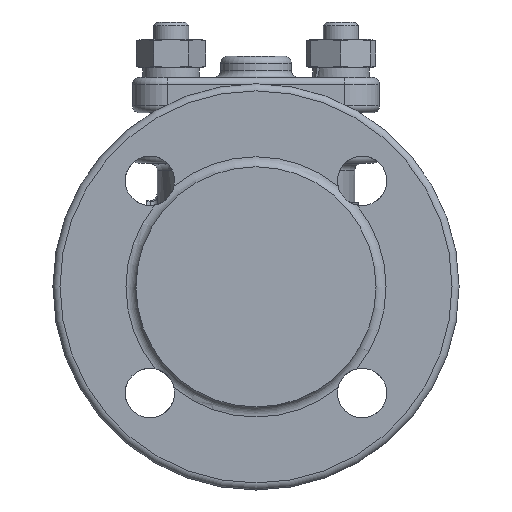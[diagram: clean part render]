
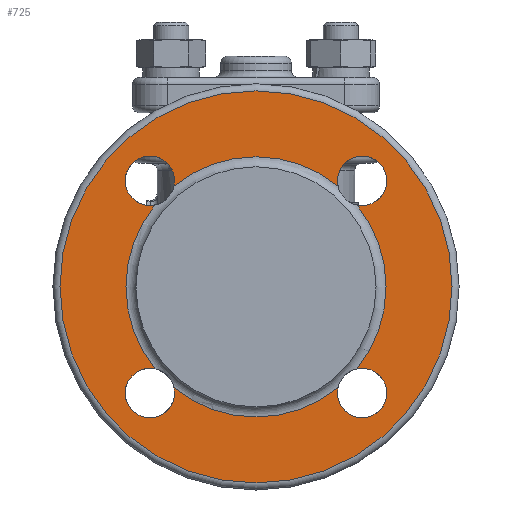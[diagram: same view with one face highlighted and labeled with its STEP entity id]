
A CAD part, front view. The second image highlights one B-rep face of the part: STEP entity #725.
In plain terms, the highlighted planar face has unit normal (0, -1, 0).
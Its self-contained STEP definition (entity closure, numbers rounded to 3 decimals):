
#184=PLANE('',#4564);
#308=FACE_BOUND('',#1298,.T.);
#309=FACE_BOUND('',#1299,.T.);
#725=ADVANCED_FACE('',(#308,#309),#184,.T.);
#1298=EDGE_LOOP('',(#2006));
#1299=EDGE_LOOP('',(#2007,#2008,#2009,#2010,#2011,#2012,#2013,#2014));
#2006=ORIENTED_EDGE('',*,*,#3681,.T.);
#2007=ORIENTED_EDGE('',*,*,#3682,.T.);
#2008=ORIENTED_EDGE('',*,*,#3683,.T.);
#2009=ORIENTED_EDGE('',*,*,#3684,.T.);
#2010=ORIENTED_EDGE('',*,*,#3685,.F.);
#2011=ORIENTED_EDGE('',*,*,#3686,.T.);
#2012=ORIENTED_EDGE('',*,*,#3687,.T.);
#2013=ORIENTED_EDGE('',*,*,#3688,.T.);
#2014=ORIENTED_EDGE('',*,*,#3689,.F.);
#3262=VERTEX_POINT('',#7671);
#3263=VERTEX_POINT('',#7673);
#3264=VERTEX_POINT('',#7674);
#3265=VERTEX_POINT('',#7676);
#3266=VERTEX_POINT('',#7678);
#3267=VERTEX_POINT('',#7680);
#3268=VERTEX_POINT('',#7682);
#3269=VERTEX_POINT('',#7684);
#3270=VERTEX_POINT('',#7686);
#3681=EDGE_CURVE('',#3262,#3262,#4271,.T.);
#3682=EDGE_CURVE('',#3263,#3264,#4272,.T.);
#3683=EDGE_CURVE('',#3264,#3265,#4273,.T.);
#3684=EDGE_CURVE('',#3265,#3266,#4274,.T.);
#3685=EDGE_CURVE('',#3267,#3266,#4275,.T.);
#3686=EDGE_CURVE('',#3267,#3268,#4276,.T.);
#3687=EDGE_CURVE('',#3268,#3269,#4277,.T.);
#3688=EDGE_CURVE('',#3269,#3270,#4278,.T.);
#3689=EDGE_CURVE('',#3263,#3270,#4279,.T.);
#4271=CIRCLE('',#4555,55.5);
#4272=CIRCLE('',#4556,36.828);
#4273=CIRCLE('',#4557,7.);
#4274=CIRCLE('',#4558,36.828);
#4275=CIRCLE('',#4559,7.);
#4276=CIRCLE('',#4560,36.828);
#4277=CIRCLE('',#4561,7.);
#4278=CIRCLE('',#4562,36.828);
#4279=CIRCLE('',#4563,7.);
#4555=AXIS2_PLACEMENT_3D('',#7670,#5167,#5168);
#4556=AXIS2_PLACEMENT_3D('',#7672,#5169,#5170);
#4557=AXIS2_PLACEMENT_3D('',#7675,#5171,#5172);
#4558=AXIS2_PLACEMENT_3D('',#7677,#5173,#5174);
#4559=AXIS2_PLACEMENT_3D('',#7679,#5175,#5176);
#4560=AXIS2_PLACEMENT_3D('',#7681,#5177,#5178);
#4561=AXIS2_PLACEMENT_3D('',#7683,#5179,#5180);
#4562=AXIS2_PLACEMENT_3D('',#7685,#5181,#5182);
#4563=AXIS2_PLACEMENT_3D('',#7687,#5183,#5184);
#4564=AXIS2_PLACEMENT_3D('',#7688,#5185,#5186);
#5167=DIRECTION('',(0.,-1.,0.));
#5168=DIRECTION('',(1.,0.,0.));
#5169=DIRECTION('',(0.,1.,0.));
#5170=DIRECTION('',(1.,0.,0.));
#5171=DIRECTION('',(0.,1.,0.));
#5172=DIRECTION('',(1.,0.,0.));
#5173=DIRECTION('',(0.,1.,0.));
#5174=DIRECTION('',(1.,0.,0.));
#5175=DIRECTION('',(0.,-1.,0.));
#5176=DIRECTION('',(1.,0.,0.));
#5177=DIRECTION('',(0.,1.,0.));
#5178=DIRECTION('',(1.,0.,0.));
#5179=DIRECTION('',(0.,1.,0.));
#5180=DIRECTION('',(1.,0.,0.));
#5181=DIRECTION('',(0.,1.,0.));
#5182=DIRECTION('',(1.,0.,0.));
#5183=DIRECTION('',(0.,-1.,0.));
#5184=DIRECTION('',(1.,0.,0.));
#5185=DIRECTION('',(0.,-1.,0.));
#5186=DIRECTION('',(1.,0.,0.));
#7670=CARTESIAN_POINT('',(21.5,-78.,0.));
#7671=CARTESIAN_POINT('',(77.,-78.,0.));
#7672=CARTESIAN_POINT('',(21.5,-78.,0.));
#7673=CARTESIAN_POINT('',(-1.705,-78.,28.599));
#7674=CARTESIAN_POINT('',(44.705,-78.,28.599));
#7675=CARTESIAN_POINT('',(51.552,-78.,30.052));
#7676=CARTESIAN_POINT('',(50.099,-78.,23.205));
#7677=CARTESIAN_POINT('',(21.5,-78.,0.));
#7678=CARTESIAN_POINT('',(50.099,-78.,-23.205));
#7679=CARTESIAN_POINT('',(51.552,-78.,-30.052));
#7680=CARTESIAN_POINT('',(44.705,-78.,-28.599));
#7681=CARTESIAN_POINT('',(21.5,-78.,0.));
#7682=CARTESIAN_POINT('',(-1.705,-78.,-28.599));
#7683=CARTESIAN_POINT('',(-8.552,-78.,-30.052));
#7684=CARTESIAN_POINT('',(-7.099,-78.,-23.205));
#7685=CARTESIAN_POINT('',(21.5,-78.,0.));
#7686=CARTESIAN_POINT('',(-7.099,-78.,23.205));
#7687=CARTESIAN_POINT('',(-8.552,-78.,30.052));
#7688=CARTESIAN_POINT('',(21.5,-78.,34.));
